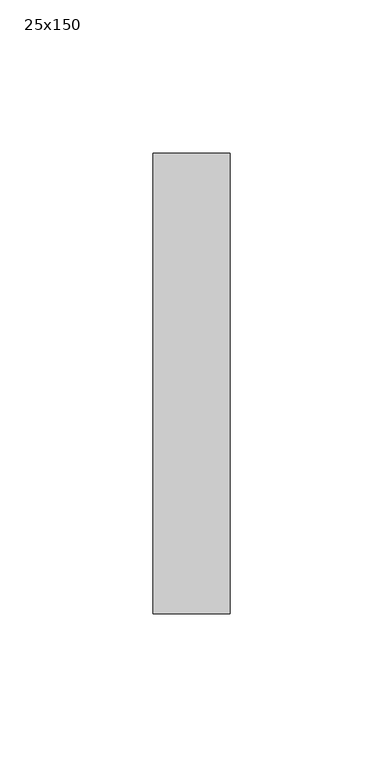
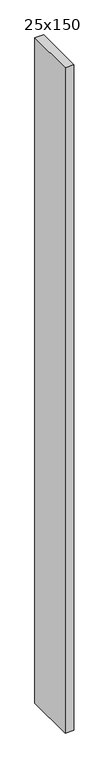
"""IFC4 building model written with IfcOpenShell, lengths in millimetres: member geometry, 長方形のマリオン : 25x150."""

from ifc_helpers import new_model, si_unit, frame, origin, place, context, project, spatial, polyline, outline, extrude, source, transform, mapped, element, save


def member_25x150_e95393f9(model_context):
    return source(origin(), model_context, "Body", "SweptSolid", [
        extrude(outline(polyline([(0.0, 75.0), (0.0, -75.0), (-25.0, -75.0), (-25.0, 75.0), (0.0, 75.0)])), frame((0.0, 0.0, -2016.6666667), z_axis=(0.0, 0.0, 1.0), x_axis=(1.0, 0.0, 0.0)), (0.0, 0.0, 1.0), 2016.6666667),
    ])


if __name__ == "__main__":
    model = new_model("IFC4")
    model_context = context("Model", 3, world=origin())
    ifc_project = project(units=[si_unit("LENGTHUNIT", "METRE", prefix="MILLI")], contexts=[model_context])
    site = spatial("IfcSite", under=ifc_project)
    building = spatial("IfcBuilding", under=site)
    placement = place(None, origin())
    member_25x150_shape = member_25x150_e95393f9(model_context)
    element("IfcMember", 1, ObjectType="長方形のマリオン : 25x150", at=placement, inside=building, context=model_context, shape_type="MappedRepresentation", body=[
        mapped(member_25x150_shape, transform((0.0, 0.0, 0.0), x_axis=(1.0, 0.0, 0.0), y_axis=(0.0, 1.0, 0.0), z_axis=(0.0, 0.0, 1.0))),
    ])
    save(model, "model.ifc")
